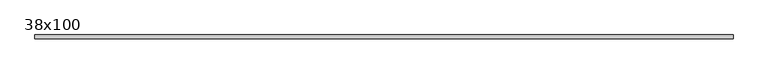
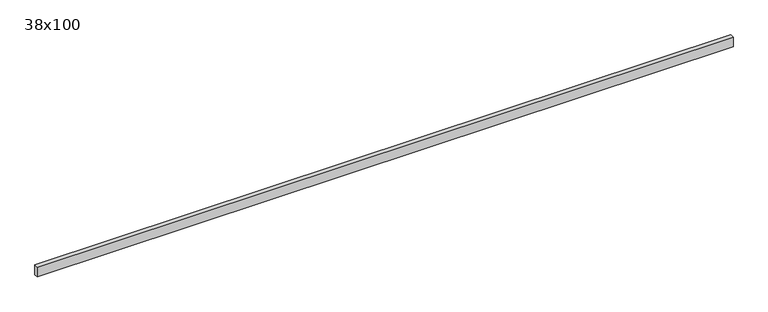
"""IFC4 building model written with IfcOpenShell, lengths in millimetres: beam geometry, Poutre - Bois de construction de dimensions courantes : 38x100."""

import ifcopenshell
import ifcopenshell.guid

model = None  # the IFC model being written
_history = None  # IfcOwnerHistory: only IFC2X3 demands one
_inside = {}  # id of a spatial element -> (the spatial element, [elements in it])
_under = {}  # id of a project, library or spatial element -> (it, [spatial elements below it])
_declared = {}  # id of a project -> (the project, [libraries it declares])
_typed = {}  # id of a type object -> (the type object, [elements of that type])
_made_of = {}  # id of a material, layer set ... -> (it, [elements and type objects made of it])


def new_model(schema):
    """Start an empty IFC model of exactly this schema.

    Asked for "IFC4X3", IfcOpenShell would pick the latest addendum, in which some entities
    have other attributes; the version numbers below select the first issue.
    IFC2X3 requires an IfcOwnerHistory on every rooted entity: one is made here for all.
    """
    global model, _history
    if schema == "IFC4X3":
        model = ifcopenshell.file(schema_version=(4, 3, 0, 0))
    else:
        model = ifcopenshell.file(schema=schema)
    _inside.clear()
    _under.clear()
    _declared.clear()
    _typed.clear()
    _made_of.clear()
    _history = None
    if model.schema == "IFC2X3":
        org = make("IfcOrganization", Name="unknown")
        user = make(
            "IfcPersonAndOrganization",
            ThePerson=make("IfcPerson", FamilyName="unknown"),
            TheOrganization=org,
        )
        app = make(
            "IfcApplication",
            ApplicationDeveloper=org,
            Version="unknown",
            ApplicationFullName="unknown",
            ApplicationIdentifier="unknown",
        )
        _history = make(
            "IfcOwnerHistory",
            OwningUser=user,
            OwningApplication=app,
            ChangeAction="ADDED",
            CreationDate=0,
        )
    return model


def make(cls, **values):
    """One entity of the class cls with the attributes given. An attribute that is None is left unset."""
    return model.create_entity(
        cls, **{name: value for name, value in values.items() if value is not None}
    )


def rooted(cls, **values):
    """An entity with a GlobalId (a new one), such as an element, a storey or a relation."""
    return make(cls, GlobalId=ifcopenshell.guid.new(), OwnerHistory=_history, **values)


def si_unit(unit_type, name, prefix=None):
    """IfcSIUnit, for example si_unit("LENGTHUNIT", "METRE", prefix="MILLI")."""
    return make("IfcSIUnit", UnitType=unit_type, Prefix=prefix, Name=name)


def assignment(units):
    """IfcUnitAssignment: the units of a project."""
    return None if units is None else make("IfcUnitAssignment", Units=units)


def point(xyz):
    """IfcCartesianPoint."""
    return None if xyz is None else make("IfcCartesianPoint", Coordinates=xyz)


def direction(xyz):
    """IfcDirection."""
    return None if xyz is None else make("IfcDirection", DirectionRatios=xyz)


def frame(location, z_axis=None, x_axis=None):
    """IfcAxis2Placement3D, a coordinate frame: its origin and axes. An axis left out is left unset."""
    return make(
        "IfcAxis2Placement3D",
        Location=point(location),
        Axis=direction(z_axis),
        RefDirection=direction(x_axis),
    )


def origin():
    """The frame at (0, 0, 0) with its axes left unset."""
    return frame((0.0, 0.0, 0.0))


def place(relative_to, where):
    """IfcLocalPlacement: puts the frame where relative to a parent placement (None: the world)."""
    return make(
        "IfcLocalPlacement", PlacementRelTo=relative_to, RelativePlacement=where
    )


def context(
    kind, dimensions, precision=None, world=None, true_north=None, identifier=None
):
    """IfcGeometricRepresentationContext, for example the 3D "Model" context."""
    return make(
        "IfcGeometricRepresentationContext",
        ContextIdentifier=identifier,
        ContextType=kind,
        CoordinateSpaceDimension=dimensions,
        Precision=precision,
        WorldCoordinateSystem=world,
        TrueNorth=true_north,
    )


def project(units=None, contexts=None):
    """IfcProject with its units and contexts."""
    return rooted(
        "IfcProject",
        Name="project",
        RepresentationContexts=contexts,
        UnitsInContext=assignment(units),
    )


def spatial(cls, under=None, at=None, **own):
    """A site, building, storey or space (cls), placed at a placement, below another one or the project."""
    s = rooted(cls, ObjectPlacement=at, **own)
    if under is not None:
        _under.setdefault(under.id(), (under, []))[1].append(s)
    return s


def polyline(points):
    """IfcPolyline through the points."""
    return make("IfcPolyline", Points=[point(p) for p in points])


def outline(outer, holes=None, kind="AREA"):
    """IfcArbitraryClosedProfileDef: a profile drawn as a closed curve; with holes, ...WithVoids."""
    if holes is None:
        return make("IfcArbitraryClosedProfileDef", ProfileType=kind, OuterCurve=outer)
    return make(
        "IfcArbitraryProfileDefWithVoids",
        ProfileType=kind,
        OuterCurve=outer,
        InnerCurves=holes,
    )


def extrude(swept, where, along, depth):
    """IfcExtrudedAreaSolid: the profile swept, set in the frame where, extruded along a direction by depth."""
    return make(
        "IfcExtrudedAreaSolid",
        SweptArea=swept,
        Position=where,
        ExtrudedDirection=direction(along),
        Depth=depth,
    )


def shape(context_of_items, identifier, shape_type, items):
    """IfcShapeRepresentation: the items that make up one representation, for example the "Body"."""
    return make(
        "IfcShapeRepresentation",
        ContextOfItems=context_of_items,
        RepresentationIdentifier=identifier,
        RepresentationType=shape_type,
        Items=items,
    )


def source(mapping_origin, context_of_items, identifier, shape_type, items):
    """IfcRepresentationMap: a shape defined once, which mapped items show again and again."""
    return make(
        "IfcRepresentationMap",
        MappingOrigin=mapping_origin,
        MappedRepresentation=shape(context_of_items, identifier, shape_type, items),
    )


def transform(
    local_origin,
    x_axis=None,
    y_axis=None,
    z_axis=None,
    scale=None,
    scale2=None,
    scale3=None,
    uniform=True,
):
    """IfcCartesianTransformationOperator3D, or its non-uniform kind. x_axis, y_axis, z_axis: its Axis1, 2, 3."""
    if uniform:
        return make(
            "IfcCartesianTransformationOperator3D",
            Axis1=direction(x_axis),
            Axis2=direction(y_axis),
            LocalOrigin=point(local_origin),
            Scale=scale,
            Axis3=direction(z_axis),
        )
    return make(
        "IfcCartesianTransformationOperator3DnonUniform",
        Axis1=direction(x_axis),
        Axis2=direction(y_axis),
        LocalOrigin=point(local_origin),
        Scale=scale,
        Axis3=direction(z_axis),
        Scale2=scale2,
        Scale3=scale3,
    )


def mapped(mapping_source, mapping_target):
    """IfcMappedItem: shows the shape of a source again, moved by a transform."""
    return make(
        "IfcMappedItem", MappingSource=mapping_source, MappingTarget=mapping_target
    )


def made_of(thing, what):
    """Note that an element or type object is made of a material, layer set ...; save() writes the relation."""
    if what is not None:
        _made_of.setdefault(what.id(), (what, []))[1].append(thing)
    return thing


def element(
    cls,
    number,
    at=None,
    inside=None,
    cuts=None,
    type_object=None,
    material=None,
    context=None,
    identifier="Body",
    shape_type=None,
    held_by="IfcProductDefinitionShape",
    body=None,
    shapes=None,
    **own,
):
    """One element of the class cls, such as IfcWall. Its Tag is "e" and its number.

    at: its placement. inside: the storey or other place that contains it. cuts: it is an
    opening in that element (IfcRelVoidsElement). A single representation is given by context,
    identifier, shape_type and body (its items); several are given by shapes. held_by: the class
    of the entity that holds the representations. save() writes the other relations.
    """
    e = rooted(cls, Tag="e%d" % number, ObjectPlacement=at, **own)
    if body is not None:
        shapes = [shape(context, identifier, shape_type, body)]
    if shapes is not None:
        e.Representation = make(held_by, Representations=shapes)
    if inside is not None:
        _inside.setdefault(inside.id(), (inside, []))[1].append(e)
    if cuts is not None:
        rooted(
            "IfcRelVoidsElement", RelatingBuildingElement=cuts, RelatedOpeningElement=e
        )
    if type_object is not None:
        _typed.setdefault(type_object.id(), (type_object, []))[1].append(e)
    return made_of(e, material)


def aggregate(whole, parts):
    """IfcRelAggregates: a whole, such as a stair, and the parts it consists of."""
    return rooted("IfcRelAggregates", RelatingObject=whole, RelatedObjects=parts)


def save(model, path):
    """Write the relations noted so far, then the file.

    IfcRelAggregates (storeys below a building ...), IfcRelContainedInSpatialStructure (elements
    in a storey), IfcRelDefinesByType, IfcRelAssociatesMaterial and IfcRelDeclares: one each for
    every whole, place, type object, material and project.
    """
    for whole, parts in _under.values():
        aggregate(whole, parts)
    for where, things in _inside.values():
        rooted(
            "IfcRelContainedInSpatialStructure",
            RelatedElements=things,
            RelatingStructure=where,
        )
    for kind, things in _typed.values():
        rooted("IfcRelDefinesByType", RelatedObjects=things, RelatingType=kind)
    for what, things in _made_of.values():
        rooted("IfcRelAssociatesMaterial", RelatedObjects=things, RelatingMaterial=what)
    for by, libraries in _declared.values():
        rooted("IfcRelDeclares", RelatingContext=by, RelatedDefinitions=libraries)
    model.write(path)


def beam_38x100_d9669b7b(model_context):
    return source(origin(), model_context, "Body", "SweptSolid", [
        extrude(outline(polyline([(3397.5, 19.05), (3397.5, -19.05), (-3352.5, -19.05), (-3352.5, 19.05), (3397.5, 19.05)])), frame((0.0, 0.0, -50.0), z_axis=(0.0, 0.0, 1.0), x_axis=(1.0, 0.0, 0.0)), (0.0, 0.0, 1.0), 100.0),
    ])


if __name__ == "__main__":
    model = new_model("IFC4")
    model_context = context("Model", 3, world=origin())
    ifc_project = project(units=[si_unit("LENGTHUNIT", "METRE", prefix="MILLI")], contexts=[model_context])
    site = spatial("IfcSite", under=ifc_project)
    building = spatial("IfcBuilding", under=site)
    placement = place(None, origin())
    beam_38x100_shape = beam_38x100_d9669b7b(model_context)
    element("IfcBeam", 1, ObjectType="Poutre - Bois de construction de dimensions courantes : 38x100", at=placement, inside=building, context=model_context, shape_type="MappedRepresentation", body=[
        mapped(beam_38x100_shape, transform((0.0, 0.0, 0.0), x_axis=(1.0, 0.0, 0.0), y_axis=(0.0, 1.0, 0.0), z_axis=(0.0, 0.0, 1.0))),
    ])
    save(model, "model.ifc")
